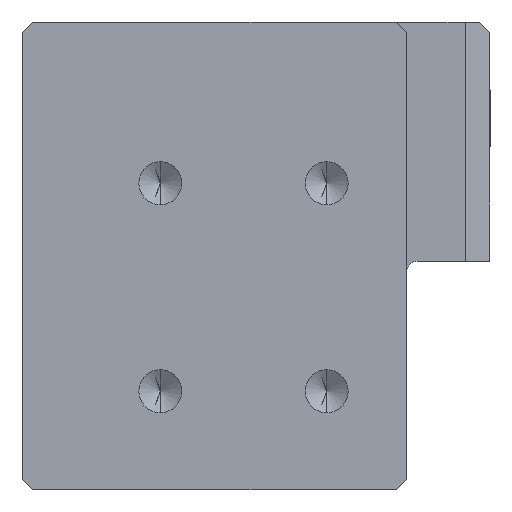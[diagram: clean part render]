
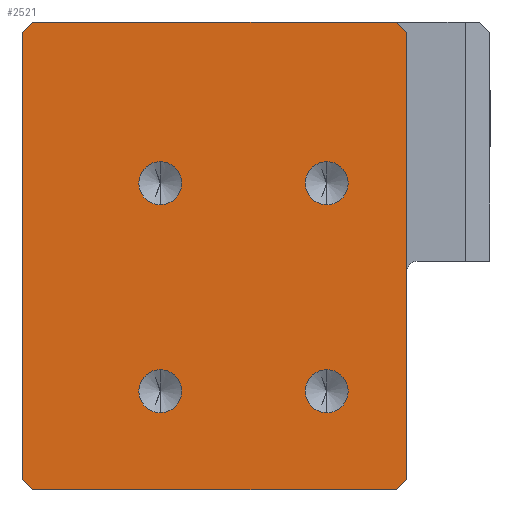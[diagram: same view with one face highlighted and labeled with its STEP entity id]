
A CAD part, front view. The second image highlights one B-rep face of the part: STEP entity #2521.
In plain terms, the highlighted planar face has unit normal (0, -1, 0).
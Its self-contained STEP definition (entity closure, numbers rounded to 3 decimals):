
#8 = CARTESIAN_POINT ( 'NONE',  ( 13.5, 0., 22.5 ) ) ;
#11 = CARTESIAN_POINT ( 'NONE',  ( 6.8, 0., -10.933 ) ) ;
#24 = CARTESIAN_POINT ( 'NONE',  ( -21.5, 0., 22.5 ) ) ;
#63 = FACE_BOUND ( 'NONE', #1110, .T. ) ;
#66 = VERTEX_POINT ( 'NONE', #126 ) ;
#78 = VECTOR ( 'NONE', #3002, 1000. ) ;
#115 = ORIENTED_EDGE ( 'NONE', *, *, #2836, .F. ) ;
#116 = VECTOR ( 'NONE', #1380, 1000. ) ;
#126 = CARTESIAN_POINT ( 'NONE',  ( 14.5, 0., 21.5 ) ) ;
#137 = DIRECTION ( 'NONE',  ( 0., 0., 1. ) ) ;
#146 = VERTEX_POINT ( 'NONE', #1172 ) ;
#201 = DIRECTION ( 'NONE',  ( 0., -1., 0. ) ) ;
#213 = FACE_OUTER_BOUND ( 'NONE', #288, .T. ) ;
#237 = LINE ( 'NONE', #1413, #1432 ) ;
#255 = AXIS2_PLACEMENT_3D ( 'NONE', #480, #2146, #2385 ) ;
#288 = EDGE_LOOP ( 'NONE', ( #115, #2049, #325, #2965, #1153, #1642, #1263, #1914 ) ) ;
#293 = VECTOR ( 'NONE', #882, 1000. ) ;
#325 = ORIENTED_EDGE ( 'NONE', *, *, #1882, .F. ) ;
#333 = VERTEX_POINT ( 'NONE', #2817 ) ;
#341 = VERTEX_POINT ( 'NONE', #2988 ) ;
#347 = EDGE_LOOP ( 'NONE', ( #2723, #1623 ) ) ;
#352 = VERTEX_POINT ( 'NONE', #645 ) ;
#360 = AXIS2_PLACEMENT_3D ( 'NONE', #1664, #1402, #922 ) ;
#384 = CIRCLE ( 'NONE', #1495, 2.067 ) ;
#402 = CARTESIAN_POINT ( 'NONE',  ( -9.2, 0., 7. ) ) ;
#422 = CIRCLE ( 'NONE', #1776, 2.067 ) ;
#435 = EDGE_CURVE ( 'NONE', #341, #1410, #2434, .T. ) ;
#446 = CARTESIAN_POINT ( 'NONE',  ( 14.5, 0., -21.5 ) ) ;
#449 = VERTEX_POINT ( 'NONE', #446 ) ;
#464 = DIRECTION ( 'NONE',  ( 0., 0., -1. ) ) ;
#479 = DIRECTION ( 'NONE',  ( 0., 0., -1. ) ) ;
#480 = CARTESIAN_POINT ( 'NONE',  ( 6.8, 0., -13. ) ) ;
#521 = CARTESIAN_POINT ( 'NONE',  ( -9.2, 0., -15.067 ) ) ;
#526 = ORIENTED_EDGE ( 'NONE', *, *, #2347, .F. ) ;
#530 = EDGE_CURVE ( 'NONE', #66, #449, #2819, .T. ) ;
#534 = CARTESIAN_POINT ( 'NONE',  ( 6.8, 0., -13. ) ) ;
#550 = EDGE_CURVE ( 'NONE', #674, #2289, #237, .T. ) ;
#562 = CARTESIAN_POINT ( 'NONE',  ( -21.5, 0., -22.5 ) ) ;
#565 = CIRCLE ( 'NONE', #1631, 2.067 ) ;
#582 = EDGE_CURVE ( 'NONE', #1613, #1333, #1356, .T. ) ;
#596 = VERTEX_POINT ( 'NONE', #2833 ) ;
#599 = CARTESIAN_POINT ( 'NONE',  ( -9.2, 0., -13. ) ) ;
#645 = CARTESIAN_POINT ( 'NONE',  ( -9.2, 0., 4.933 ) ) ;
#660 = DIRECTION ( 'NONE',  ( 1., 0., 0. ) ) ;
#674 = VERTEX_POINT ( 'NONE', #2868 ) ;
#699 = ORIENTED_EDGE ( 'NONE', *, *, #2978, .F. ) ;
#700 = VERTEX_POINT ( 'NONE', #24 ) ;
#719 = CARTESIAN_POINT ( 'NONE',  ( 6.8, 0., 7. ) ) ;
#722 = DIRECTION ( 'NONE',  ( 0., 1., 0. ) ) ;
#798 = CARTESIAN_POINT ( 'NONE',  ( 6.8, 0., -15.067 ) ) ;
#800 = EDGE_CURVE ( 'NONE', #333, #352, #2668, .T. ) ;
#806 = DIRECTION ( 'NONE',  ( 0., 0., -1. ) ) ;
#823 = LINE ( 'NONE', #2001, #116 ) ;
#850 = EDGE_LOOP ( 'NONE', ( #526, #2115 ) ) ;
#882 = DIRECTION ( 'NONE',  ( 0.707, 0., -0.707 ) ) ;
#890 = VECTOR ( 'NONE', #2467, 1000. ) ;
#919 = LINE ( 'NONE', #3048, #293 ) ;
#922 = DIRECTION ( 'NONE',  ( 0., 0., -1. ) ) ;
#928 = DIRECTION ( 'NONE',  ( 0., -1., 0. ) ) ;
#954 = VERTEX_POINT ( 'NONE', #1743 ) ;
#961 = EDGE_CURVE ( 'NONE', #700, #596, #2253, .T. ) ;
#998 = CARTESIAN_POINT ( 'NONE',  ( 0., 0., 0. ) ) ;
#1110 = EDGE_LOOP ( 'NONE', ( #1983, #699 ) ) ;
#1111 = CARTESIAN_POINT ( 'NONE',  ( 14.5, 0., 22.5 ) ) ;
#1118 = AXIS2_PLACEMENT_3D ( 'NONE', #599, #201, #2511 ) ;
#1135 = DIRECTION ( 'NONE',  ( 0., -1., 0. ) ) ;
#1153 = ORIENTED_EDGE ( 'NONE', *, *, #550, .F. ) ;
#1172 = CARTESIAN_POINT ( 'NONE',  ( -22.5, 0., -21.5 ) ) ;
#1263 = ORIENTED_EDGE ( 'NONE', *, *, #530, .F. ) ;
#1333 = VERTEX_POINT ( 'NONE', #11 ) ;
#1334 = FACE_BOUND ( 'NONE', #850, .T. ) ;
#1349 = CARTESIAN_POINT ( 'NONE',  ( -22.5, 0., -22.5 ) ) ;
#1356 = CIRCLE ( 'NONE', #255, 2.067 ) ;
#1380 = DIRECTION ( 'NONE',  ( 0.707, 0., 0.707 ) ) ;
#1402 = DIRECTION ( 'NONE',  ( 0., -1., 0. ) ) ;
#1407 = CARTESIAN_POINT ( 'NONE',  ( -22.5, 0., 22.5 ) ) ;
#1410 = VERTEX_POINT ( 'NONE', #521 ) ;
#1413 = CARTESIAN_POINT ( 'NONE',  ( -22.5, 0., -22.5 ) ) ;
#1422 = EDGE_CURVE ( 'NONE', #1333, #1613, #1579, .T. ) ;
#1432 = VECTOR ( 'NONE', #2812, 1000. ) ;
#1455 = ORIENTED_EDGE ( 'NONE', *, *, #2147, .F. ) ;
#1493 = LINE ( 'NONE', #1349, #78 ) ;
#1495 = AXIS2_PLACEMENT_3D ( 'NONE', #402, #1135, #1823 ) ;
#1539 = AXIS2_PLACEMENT_3D ( 'NONE', #998, #722, #137 ) ;
#1540 = DIRECTION ( 'NONE',  ( 0., 0., -1. ) ) ;
#1579 = CIRCLE ( 'NONE', #1859, 2.067 ) ;
#1594 = EDGE_CURVE ( 'NONE', #954, #2514, #565, .T. ) ;
#1613 = VERTEX_POINT ( 'NONE', #798 ) ;
#1614 = LINE ( 'NONE', #8, #890 ) ;
#1623 = ORIENTED_EDGE ( 'NONE', *, *, #1422, .F. ) ;
#1629 = VECTOR ( 'NONE', #2952, 1000. ) ;
#1631 = AXIS2_PLACEMENT_3D ( 'NONE', #2711, #2682, #1782 ) ;
#1642 = ORIENTED_EDGE ( 'NONE', *, *, #1721, .T. ) ;
#1645 = CARTESIAN_POINT ( 'NONE',  ( 13.5, 0., 22.5 ) ) ;
#1655 = LINE ( 'NONE', #1407, #2274 ) ;
#1658 = DIRECTION ( 'NONE',  ( 0., -1., 0. ) ) ;
#1664 = CARTESIAN_POINT ( 'NONE',  ( -9.2, 0., 7. ) ) ;
#1721 = EDGE_CURVE ( 'NONE', #674, #449, #823, .T. ) ;
#1743 = CARTESIAN_POINT ( 'NONE',  ( 6.8, 0., 4.933 ) ) ;
#1776 = AXIS2_PLACEMENT_3D ( 'NONE', #1797, #928, #479 ) ;
#1782 = DIRECTION ( 'NONE',  ( 0., 0., -1. ) ) ;
#1797 = CARTESIAN_POINT ( 'NONE',  ( -9.2, 0., -13. ) ) ;
#1823 = DIRECTION ( 'NONE',  ( 0., 0., -1. ) ) ;
#1859 = AXIS2_PLACEMENT_3D ( 'NONE', #534, #2241, #806 ) ;
#1882 = EDGE_CURVE ( 'NONE', #146, #596, #1493, .T. ) ;
#1914 = ORIENTED_EDGE ( 'NONE', *, *, #2290, .T. ) ;
#1977 = FACE_BOUND ( 'NONE', #347, .T. ) ;
#1983 = ORIENTED_EDGE ( 'NONE', *, *, #1594, .F. ) ;
#2001 = CARTESIAN_POINT ( 'NONE',  ( 14.5, 0., -21.5 ) ) ;
#2049 = ORIENTED_EDGE ( 'NONE', *, *, #961, .T. ) ;
#2115 = ORIENTED_EDGE ( 'NONE', *, *, #435, .F. ) ;
#2147 = EDGE_CURVE ( 'NONE', #352, #333, #384, .T. ) ;
#2146 = DIRECTION ( 'NONE',  ( 0., -1., 0. ) ) ;
#2219 = VECTOR ( 'NONE', #464, 1000. ) ;
#2241 = DIRECTION ( 'NONE',  ( 0., -1., 0. ) ) ;
#2243 = CARTESIAN_POINT ( 'NONE',  ( 6.8, 0., 9.067 ) ) ;
#2253 = LINE ( 'NONE', #2649, #1629 ) ;
#2274 = VECTOR ( 'NONE', #660, 1000. ) ;
#2289 = VERTEX_POINT ( 'NONE', #562 ) ;
#2290 = EDGE_CURVE ( 'NONE', #66, #2519, #1614, .T. ) ;
#2347 = EDGE_CURVE ( 'NONE', #1410, #341, #422, .T. ) ;
#2385 = DIRECTION ( 'NONE',  ( 0., 0., -1. ) ) ;
#2434 = CIRCLE ( 'NONE', #1118, 2.067 ) ;
#2467 = DIRECTION ( 'NONE',  ( -0.707, 0., 0.707 ) ) ;
#2511 = DIRECTION ( 'NONE',  ( 0., 0., -1. ) ) ;
#2514 = VERTEX_POINT ( 'NONE', #2243 ) ;
#2519 = VERTEX_POINT ( 'NONE', #1645 ) ;
#2521 = ADVANCED_FACE ( 'NONE', ( #63, #1977, #1334, #2523, #213 ), #2712, .F. ) ;
#2523 = FACE_BOUND ( 'NONE', #3023, .T. ) ;
#2649 = CARTESIAN_POINT ( 'NONE',  ( -21.5, 0., 22.5 ) ) ;
#2668 = CIRCLE ( 'NONE', #360, 2.067 ) ;
#2682 = DIRECTION ( 'NONE',  ( 0., -1., 0. ) ) ;
#2711 = CARTESIAN_POINT ( 'NONE',  ( 6.8, 0., 7. ) ) ;
#2712 = PLANE ( 'NONE',  #1539 ) ;
#2723 = ORIENTED_EDGE ( 'NONE', *, *, #582, .F. ) ;
#2812 = DIRECTION ( 'NONE',  ( -1., 0., 0. ) ) ;
#2817 = CARTESIAN_POINT ( 'NONE',  ( -9.2, 0., 9.067 ) ) ;
#2819 = LINE ( 'NONE', #1111, #2219 ) ;
#2833 = CARTESIAN_POINT ( 'NONE',  ( -22.5, 0., 21.5 ) ) ;
#2835 = CIRCLE ( 'NONE', #2994, 2.067 ) ;
#2836 = EDGE_CURVE ( 'NONE', #700, #2519, #1655, .T. ) ;
#2838 = ORIENTED_EDGE ( 'NONE', *, *, #800, .F. ) ;
#2860 = EDGE_CURVE ( 'NONE', #146, #2289, #919, .T. ) ;
#2868 = CARTESIAN_POINT ( 'NONE',  ( 13.5, 0., -22.5 ) ) ;
#2952 = DIRECTION ( 'NONE',  ( -0.707, 0., -0.707 ) ) ;
#2965 = ORIENTED_EDGE ( 'NONE', *, *, #2860, .T. ) ;
#2978 = EDGE_CURVE ( 'NONE', #2514, #954, #2835, .T. ) ;
#2988 = CARTESIAN_POINT ( 'NONE',  ( -9.2, 0., -10.933 ) ) ;
#2994 = AXIS2_PLACEMENT_3D ( 'NONE', #719, #1658, #1540 ) ;
#3002 = DIRECTION ( 'NONE',  ( 0., 0., 1. ) ) ;
#3023 = EDGE_LOOP ( 'NONE', ( #1455, #2838 ) ) ;
#3048 = CARTESIAN_POINT ( 'NONE',  ( -22.5, 0., -21.5 ) ) ;
